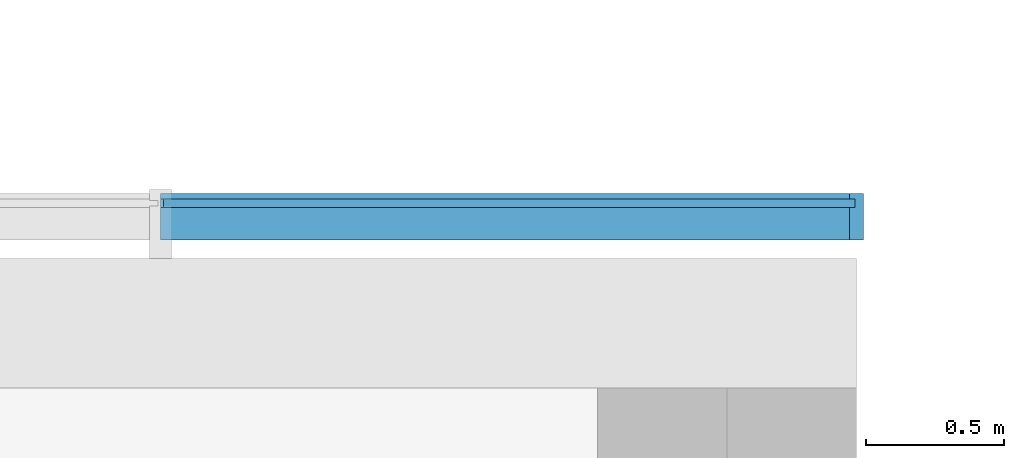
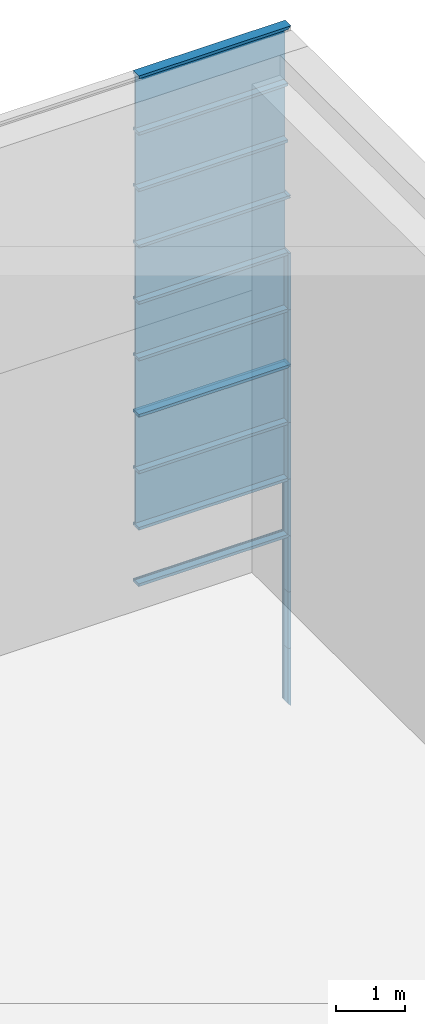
# One storey, part 65 of 105: 28 building element parts, 4 elements without a shape of their own.
"""IFC4 building model written with IfcOpenShell, lengths in millimetres."""

from ifc_helpers import new_model, entity, si_unit, converted_unit, derived_unit, direction, frame, origin_with_axes, place, context, subcontext, project, spatial, triangles, material, element, aggregate, save


model = new_model("IFC4")

# Units and contexts
model_context = context("Model", 3, precision=1e-05, world=origin_with_axes(), true_north=direction((0.0, 1.0)))
body_context = subcontext(model_context, "Body", "Model", "MODEL_VIEW")
ifc_project = project(units=[si_unit("LENGTHUNIT", "METRE", prefix="MILLI"), si_unit("AREAUNIT", "SQUARE_METRE"), si_unit("VOLUMEUNIT", "CUBIC_METRE"), converted_unit("PLANEANGLEUNIT", "DEGREE", entity("IfcLengthMeasure", 0.017453), si_unit("PLANEANGLEUNIT", "RADIAN"), dimensions=[0, 0, 0, 0, 0, 0, 0]), si_unit("SOLIDANGLEUNIT", "STERADIAN"), si_unit("MASSUNIT", "GRAM"), si_unit("TIMEUNIT", "SECOND"), si_unit("THERMODYNAMICTEMPERATUREUNIT", "DEGREE_CELSIUS"), si_unit("LUMINOUSINTENSITYUNIT", "LUMEN"), si_unit("POWERUNIT", "WATT"), derived_unit("THERMALTRANSMITTANCEUNIT", [(si_unit("POWERUNIT", "WATT"), 1), (si_unit("THERMODYNAMICTEMPERATUREUNIT", "KELVIN"), -1), (si_unit("AREAUNIT", "SQUARE_METRE"), -1)])], contexts=[model_context])

# Site, building, storey
site_placement = place(None, origin_with_axes())
site = spatial("IfcSite", under=ifc_project, at=site_placement, Name="Default Site", CompositionType="ELEMENT")
building_placement = place(site_placement, origin_with_axes())
building = spatial("IfcBuilding", under=site, at=building_placement, Name="Default Building", CompositionType="ELEMENT")
storey_placement = place(building_placement, origin_with_axes())
storey = spatial("IfcBuildingStorey", under=building, at=storey_placement, Name="OG - Story", CompositionType="ELEMENT", Elevation=0.0)

# Curtain wall, building element parts
curtain_wall_1_placement = place(storey_placement, origin_with_axes())
curtain_wall_1 = element("IfcCurtainWall", 1, at=curtain_wall_1_placement, inside=storey, Name="Fassade-004", PredefinedType="NOTDEFINED")
ifc_material_1 = material(Name="Blech")
building_element_part_1_placement = place(curtain_wall_1_placement, frame((33014.549222, -4389.262838, 0.0), z_axis=(0.0, 0.0, 1.0), x_axis=(1.0, 0.0, 0.0)))
building_element_part_1 = element("IfcBuildingElementPart", 2, at=building_element_part_1_placement, material=ifc_material_1, Name="Blech", PredefinedType="NOTDEFINED", context=body_context, shape_type="Tessellation", body=[
    triangles([(46731.842, 15.0, 1000.0), (46731.842, -14.999, 1000.0), (46761.842, -132.999, 1000.0), (46761.842, 35.0, 1000.0), (46711.842, 35.0, 1000.0), (46711.842, 15.0, 1000.0), (46711.842, -14.999, 1000.0), (46711.842, -132.999, 1000.0), (46731.842, -14.999, 5.0), (46711.842, -14.999, 25.0), (46711.842, -132.999, 25.0), (46761.842, -132.999, -24.999), (46761.842, 35.0, -24.999), (46711.842, 35.0, 25.0), (46711.842, 15.0, 25.0), (46731.842, 15.0, 5.0)], [[1, 2, 3], [1, 3, 4], [1, 4, 5], [1, 5, 6], [7, 8, 3], [7, 3, 2], [2, 9, 10], [2, 10, 7], [10, 11, 8], [10, 8, 7], [8, 11, 12], [8, 12, 3], [3, 12, 13], [3, 13, 4], [4, 13, 14], [4, 14, 5], [6, 5, 14], [6, 14, 15], [15, 16, 1], [15, 1, 6], [1, 16, 9], [1, 9, 2], [15, 16, 13], [13, 16, 9], [13, 9, 11], [11, 9, 10], [13, 11, 12], [15, 13, 14]], closed=False),
])
building_element_part_2_placement = place(curtain_wall_1_placement, frame((33014.549222, -4389.262838, 0.0), z_axis=(0.0, 0.0, 1.0), x_axis=(1.0, 0.0, 0.0)))
building_element_part_2 = element("IfcBuildingElementPart", 3, at=building_element_part_2_placement, material=ifc_material_1, Name="Blech", PredefinedType="NOTDEFINED", context=body_context, shape_type="Tessellation", body=[
    triangles([(46731.842, 15.0, 2000.0), (46731.842, -14.999, 2000.0), (46761.842, -132.999, 2000.0), (46761.842, 35.0, 2000.0), (46711.842, 35.0, 2000.0), (46711.842, 15.0, 2000.0), (46711.842, -14.999, 2000.0), (46711.842, -132.999, 2000.0), (46731.842, -14.999, 1000.0), (46711.842, -14.999, 1000.0), (46711.842, -132.999, 1000.0), (46761.842, -132.999, 1000.0), (46761.842, 35.0, 1000.0), (46711.842, 35.0, 1000.0), (46711.842, 15.0, 1000.0), (46731.842, 15.0, 1000.0)], [[1, 2, 3], [1, 3, 4], [1, 4, 5], [1, 5, 6], [7, 8, 3], [7, 3, 2], [2, 9, 10], [2, 10, 7], [10, 11, 8], [10, 8, 7], [11, 12, 3], [11, 3, 8], [12, 13, 4], [12, 4, 3], [13, 14, 5], [13, 5, 4], [6, 5, 14], [6, 14, 15], [15, 16, 1], [15, 1, 6], [1, 16, 9], [1, 9, 2], [16, 9, 12], [16, 12, 13], [16, 13, 14], [16, 14, 15], [10, 11, 12], [10, 12, 9]], closed=False),
])
building_element_part_3_placement = place(curtain_wall_1_placement, frame((33014.549222, -4389.262838, 0.0), z_axis=(0.0, 0.0, 1.0), x_axis=(1.0, 0.0, 0.0)))
building_element_part_3 = element("IfcBuildingElementPart", 4, at=building_element_part_3_placement, material=ifc_material_1, Name="Blech", PredefinedType="NOTDEFINED", context=body_context, shape_type="Tessellation", body=[
    triangles([(46761.842, 35.0, 3025.0), (46711.842, 35.0, 2975.0), (46711.842, 15.0, 2975.0), (46731.842, 15.0, 2995.0), (46731.842, -14.999, 2995.0), (46711.842, -132.999, 2975.0), (46761.842, -132.999, 3025.0), (46711.842, -14.999, 2975.0), (46731.842, -14.999, 2000.0), (46711.842, -14.999, 2000.0), (46711.842, -132.999, 2000.0), (46761.842, -132.999, 2000.0), (46761.842, 35.0, 2000.0), (46711.842, 35.0, 2000.0), (46711.842, 15.0, 2000.0), (46731.842, 15.0, 2000.0)], [[1, 2, 3], [1, 3, 4], [1, 4, 5], [1, 5, 6], [1, 6, 7], [8, 6, 5], [5, 9, 10], [5, 10, 8], [10, 11, 6], [10, 6, 8], [11, 12, 7], [11, 7, 6], [12, 13, 1], [12, 1, 7], [13, 14, 2], [13, 2, 1], [3, 2, 14], [3, 14, 15], [15, 16, 4], [15, 4, 3], [4, 16, 9], [4, 9, 5], [16, 9, 12], [16, 12, 13], [16, 13, 14], [16, 14, 15], [10, 11, 12], [10, 12, 9]], closed=False),
])
aggregate(curtain_wall_1, [building_element_part_1, building_element_part_2, building_element_part_3])

curtain_wall_2_placement = place(storey_placement, origin_with_axes())
curtain_wall_2 = element("IfcCurtainWall", 5, at=curtain_wall_2_placement, inside=storey, Name="Fassade-004", PredefinedType="NOTDEFINED")
ifc_material_2 = material(Name="Normalglas")
building_element_part_4_placement = place(curtain_wall_2_placement, frame((33014.549222, -4389.262838, 3000.0), z_axis=(0.0, 0.0, 1.0), x_axis=(1.0, 0.0, 0.0)))
building_element_part_4 = element("IfcBuildingElementPart", 6, at=building_element_part_4_placement, material=ifc_material_2, Name="Normalglas", PredefinedType="NOTDEFINED", context=body_context, shape_type="Tessellation", body=[
    triangles([(46731.842, -14.999, 1995.0), (46731.842, 15.0, 1995.0), (44220.526, 15.0, 1995.0), (44220.526, -14.999, 1995.0), (46731.842, -14.999, 1005.0), (46731.842, 15.0, 1005.0), (44220.526, 15.0, 1005.0), (44220.526, -14.999, 1005.0)], [[1, 2, 3], [1, 3, 4], [5, 6, 2], [5, 2, 1], [2, 6, 7], [2, 7, 3], [4, 3, 7], [4, 7, 8], [1, 4, 8], [1, 8, 5], [8, 7, 6], [8, 6, 5]], closed=False),
])
building_element_part_5_placement = place(curtain_wall_2_placement, frame((33014.549222, -4389.262838, 3000.0), z_axis=(0.0, 0.0, 1.0), x_axis=(1.0, 0.0, 0.0)))
building_element_part_5 = element("IfcBuildingElementPart", 7, at=building_element_part_5_placement, material=ifc_material_2, Name="Normalglas", PredefinedType="NOTDEFINED", context=body_context, shape_type="Tessellation", body=[
    triangles([(46731.842, -14.999, 2995.0), (46731.842, 15.0, 2995.0), (44220.526, 15.0, 2995.0), (44220.526, -14.999, 2995.0), (46731.842, -14.999, 2005.0), (46731.842, 15.0, 2005.0), (44220.526, 15.0, 2005.0), (44220.526, -14.999, 2005.0)], [[1, 2, 3], [1, 3, 4], [5, 6, 2], [5, 2, 1], [2, 6, 7], [2, 7, 3], [4, 3, 7], [4, 7, 8], [1, 4, 8], [1, 8, 5], [8, 7, 6], [8, 6, 5]], closed=False),
])
building_element_part_6_placement = place(curtain_wall_2_placement, frame((33014.549222, -4389.262838, 3000.0), z_axis=(0.0, 0.0, 1.0), x_axis=(1.0, 0.0, 0.0)))
building_element_part_6 = element("IfcBuildingElementPart", 8, at=building_element_part_6_placement, material=ifc_material_1, Name="Blech", PredefinedType="NOTDEFINED", context=body_context, shape_type="Tessellation", body=[
    triangles([(46761.842, 35.0, -24.999), (46711.842, 35.0, 25.0), (46711.842, 15.0, 25.0), (46731.842, 15.0, 5.0), (46731.842, -14.999, 5.0), (46711.842, -132.999, 25.0), (46761.842, -132.999, -24.999), (46711.842, -14.999, 25.0), (44210.526, -14.999, 5.0), (44210.526, -14.999, 25.0), (44210.526, -132.999, 25.0), (44210.526, -132.999, -24.999), (44210.526, 35.0, -24.999), (44210.526, 35.0, 25.0), (44210.526, 15.0, 25.0), (44210.526, 15.0, 5.0)], [[1, 2, 3], [1, 3, 4], [1, 4, 5], [1, 5, 6], [1, 6, 7], [8, 6, 5], [5, 9, 10], [5, 10, 8], [10, 11, 6], [10, 6, 8], [11, 12, 7], [11, 7, 6], [12, 13, 1], [12, 1, 7], [13, 14, 2], [13, 2, 1], [3, 2, 14], [3, 14, 15], [15, 16, 4], [15, 4, 3], [4, 16, 9], [4, 9, 5], [15, 16, 13], [13, 16, 9], [13, 9, 11], [11, 9, 10], [13, 11, 12], [15, 13, 14]], closed=False),
])
building_element_part_7_placement = place(curtain_wall_2_placement, frame((33014.549222, -4389.262838, 3000.0), z_axis=(0.0, 0.0, 1.0), x_axis=(1.0, 0.0, 0.0)))
building_element_part_7 = element("IfcBuildingElementPart", 9, at=building_element_part_7_placement, material=ifc_material_1, Name="Blech", PredefinedType="NOTDEFINED", context=body_context, shape_type="Tessellation", body=[
    triangles([(46731.842, 15.0, 1000.0), (46731.842, -14.999, 1000.0), (46761.842, -132.999, 1000.0), (46761.842, 35.0, 1000.0), (46711.842, 35.0, 1000.0), (46711.842, 15.0, 1000.0), (46711.842, -14.999, 1000.0), (46711.842, -132.999, 1000.0), (46731.842, -14.999, 5.0), (46711.842, -14.999, 25.0), (46711.842, -132.999, 25.0), (46761.842, -132.999, -24.999), (46761.842, 35.0, -24.999), (46711.842, 35.0, 25.0), (46711.842, 15.0, 25.0), (46731.842, 15.0, 5.0)], [[1, 2, 3], [1, 3, 4], [1, 4, 5], [1, 5, 6], [7, 8, 3], [7, 3, 2], [2, 9, 10], [2, 10, 7], [10, 11, 8], [10, 8, 7], [8, 11, 12], [8, 12, 3], [3, 12, 13], [3, 13, 4], [4, 13, 14], [4, 14, 5], [6, 5, 14], [6, 14, 15], [15, 16, 1], [15, 1, 6], [1, 16, 9], [1, 9, 2], [15, 16, 13], [13, 16, 9], [13, 9, 11], [11, 9, 10], [13, 11, 12], [15, 13, 14]], closed=False),
])
building_element_part_8_placement = place(curtain_wall_2_placement, frame((33014.549222, -4389.262838, 3000.0), z_axis=(0.0, 0.0, 1.0), x_axis=(1.0, 0.0, 0.0)))
building_element_part_8 = element("IfcBuildingElementPart", 10, at=building_element_part_8_placement, material=ifc_material_1, Name="Blech", PredefinedType="NOTDEFINED", context=body_context, shape_type="Tessellation", body=[
    triangles([(46711.842, 35.0, 975.0), (46711.842, 15.0, 975.0), (46711.842, 35.0, 1025.0), (46711.842, 15.0, 995.0), (46711.842, 15.0, 1005.0), (46711.842, -14.999, 995.0), (46711.842, -14.999, 1005.0), (46711.842, -14.999, 1025.0), (46711.842, -14.999, 975.0), (46711.842, -132.999, 975.0), (46711.842, -132.999, 1025.0), (46711.842, 15.0, 1025.0), (44210.526, -14.999, 995.0), (44210.526, 15.0, 995.0), (44210.526, 15.0, 975.0), (44210.526, 35.0, 975.0), (44210.526, 35.0, 1025.0), (44210.526, 15.0, 1025.0), (44210.526, 15.0, 1005.0), (44210.526, -14.999, 1005.0), (44210.526, -14.999, 1025.0), (44210.526, -132.999, 1025.0), (44210.526, -132.999, 975.0), (44210.526, -14.999, 975.0)], [[1, 2, 3], [3, 2, 4], [3, 4, 5], [5, 4, 6], [5, 6, 7], [8, 9, 10], [8, 10, 11], [3, 5, 12], [6, 13, 14], [6, 14, 4], [4, 14, 15], [4, 15, 2], [15, 16, 1], [15, 1, 2], [1, 16, 17], [1, 17, 3], [18, 12, 3], [18, 3, 17], [12, 18, 19], [12, 19, 5], [7, 5, 19], [7, 19, 20], [8, 7, 20], [8, 20, 21], [8, 21, 22], [8, 22, 11], [11, 22, 23], [11, 23, 10], [9, 10, 23], [9, 23, 24], [9, 24, 13], [9, 13, 6], [17, 18, 16], [16, 18, 19], [16, 19, 14], [14, 19, 20], [14, 20, 13], [24, 21, 22], [24, 22, 23], [16, 14, 15]], closed=False),
])
building_element_part_9_placement = place(curtain_wall_2_placement, frame((33014.549222, -4389.262838, 3000.0), z_axis=(0.0, 0.0, 1.0), x_axis=(1.0, 0.0, 0.0)))
building_element_part_9 = element("IfcBuildingElementPart", 11, at=building_element_part_9_placement, material=ifc_material_1, Name="Blech", PredefinedType="NOTDEFINED", context=body_context, shape_type="Tessellation", body=[
    triangles([(46731.842, 15.0, 2000.0), (46731.842, -14.999, 2000.0), (46761.842, -132.999, 2000.0), (46761.842, 35.0, 2000.0), (46711.842, 35.0, 2000.0), (46711.842, 15.0, 2000.0), (46711.842, -14.999, 2000.0), (46711.842, -132.999, 2000.0), (46731.842, -14.999, 1000.0), (46711.842, -14.999, 1000.0), (46711.842, -132.999, 1000.0), (46761.842, -132.999, 1000.0), (46761.842, 35.0, 1000.0), (46711.842, 35.0, 1000.0), (46711.842, 15.0, 1000.0), (46731.842, 15.0, 1000.0)], [[1, 2, 3], [1, 3, 4], [1, 4, 5], [1, 5, 6], [7, 8, 3], [7, 3, 2], [2, 9, 10], [2, 10, 7], [10, 11, 8], [10, 8, 7], [11, 12, 3], [11, 3, 8], [12, 13, 4], [12, 4, 3], [13, 14, 5], [13, 5, 4], [6, 5, 14], [6, 14, 15], [15, 16, 1], [15, 1, 6], [1, 16, 9], [1, 9, 2], [16, 9, 12], [16, 12, 13], [16, 13, 14], [16, 14, 15], [10, 11, 12], [10, 12, 9]], closed=False),
])
building_element_part_10_placement = place(curtain_wall_2_placement, frame((33014.549222, -4389.262838, 3000.0), z_axis=(0.0, 0.0, 1.0), x_axis=(1.0, 0.0, 0.0)))
building_element_part_10 = element("IfcBuildingElementPart", 12, at=building_element_part_10_placement, material=ifc_material_1, Name="Blech", PredefinedType="NOTDEFINED", context=body_context, shape_type="Tessellation", body=[
    triangles([(46711.842, 35.0, 1975.0), (46711.842, 15.0, 1975.0), (46711.842, 35.0, 2025.0), (46711.842, 15.0, 1995.0), (46711.842, 15.0, 2005.0), (46711.842, -14.999, 1995.0), (46711.842, -14.999, 2005.0), (46711.842, -14.999, 2025.0), (46711.842, -14.999, 1975.0), (46711.842, -132.999, 1975.0), (46711.842, -132.999, 2025.0), (46711.842, 15.0, 2025.0), (44210.526, -14.999, 1995.0), (44210.526, 15.0, 1995.0), (44210.526, 15.0, 1975.0), (44210.526, 35.0, 1975.0), (44210.526, 35.0, 2025.0), (44210.526, 15.0, 2025.0), (44210.526, 15.0, 2005.0), (44210.526, -14.999, 2005.0), (44210.526, -14.999, 2025.0), (44210.526, -132.999, 2025.0), (44210.526, -132.999, 1975.0), (44210.526, -14.999, 1975.0)], [[1, 2, 3], [3, 2, 4], [3, 4, 5], [5, 4, 6], [5, 6, 7], [8, 9, 10], [8, 10, 11], [3, 5, 12], [6, 13, 14], [6, 14, 4], [4, 14, 15], [4, 15, 2], [15, 16, 1], [15, 1, 2], [1, 16, 17], [1, 17, 3], [18, 12, 3], [18, 3, 17], [12, 18, 19], [12, 19, 5], [7, 5, 19], [7, 19, 20], [8, 7, 20], [8, 20, 21], [8, 21, 22], [8, 22, 11], [11, 22, 23], [11, 23, 10], [9, 10, 23], [9, 23, 24], [9, 24, 13], [9, 13, 6], [17, 18, 16], [16, 18, 19], [16, 19, 14], [14, 19, 20], [14, 20, 13], [24, 21, 22], [24, 22, 23], [16, 14, 15]], closed=False),
])
building_element_part_11_placement = place(curtain_wall_2_placement, frame((33014.549222, -4389.262838, 3000.0), z_axis=(0.0, 0.0, 1.0), x_axis=(1.0, 0.0, 0.0)))
building_element_part_11 = element("IfcBuildingElementPart", 13, at=building_element_part_11_placement, material=ifc_material_1, Name="Blech", PredefinedType="NOTDEFINED", context=body_context, shape_type="Tessellation", body=[
    triangles([(46761.842, 35.0, 3025.0), (46711.842, 35.0, 2975.0), (46711.842, 15.0, 2975.0), (46731.842, 15.0, 2995.0), (46731.842, -14.999, 2995.0), (46711.842, -132.999, 2975.0), (46761.842, -132.999, 3025.0), (46711.842, -14.999, 2975.0), (46731.842, -14.999, 2000.0), (46711.842, -14.999, 2000.0), (46711.842, -132.999, 2000.0), (46761.842, -132.999, 2000.0), (46761.842, 35.0, 2000.0), (46711.842, 35.0, 2000.0), (46711.842, 15.0, 2000.0), (46731.842, 15.0, 2000.0)], [[1, 2, 3], [1, 3, 4], [1, 4, 5], [1, 5, 6], [1, 6, 7], [8, 6, 5], [5, 9, 10], [5, 10, 8], [10, 11, 6], [10, 6, 8], [11, 12, 7], [11, 7, 6], [12, 13, 1], [12, 1, 7], [13, 14, 2], [13, 2, 1], [3, 2, 14], [3, 14, 15], [15, 16, 4], [15, 4, 3], [4, 16, 9], [4, 9, 5], [16, 9, 12], [16, 12, 13], [16, 13, 14], [16, 14, 15], [10, 11, 12], [10, 12, 9]], closed=False),
])
building_element_part_12_placement = place(curtain_wall_2_placement, frame((33014.549222, -4389.262838, 3000.0), z_axis=(0.0, 0.0, 1.0), x_axis=(1.0, 0.0, 0.0)))
building_element_part_12 = element("IfcBuildingElementPart", 14, at=building_element_part_12_placement, material=ifc_material_1, Name="Blech", PredefinedType="NOTDEFINED", context=body_context, shape_type="Tessellation", body=[
    triangles([(46711.842, 15.0, 2975.0), (46731.842, 15.0, 2995.0), (46761.842, 35.0, 3025.0), (46731.842, -14.999, 2995.0), (46711.842, -132.999, 2975.0), (46711.842, -14.999, 2975.0), (46761.842, -132.999, 3025.0), (46711.842, 35.0, 2975.0), (44210.526, -14.999, 2995.0), (44210.526, 15.0, 2995.0), (44210.526, 15.0, 2975.0), (44210.526, 35.0, 2975.0), (44210.526, 35.0, 3025.0), (44210.526, -132.999, 3025.0), (44210.526, -132.999, 2975.0), (44210.526, -14.999, 2975.0)], [[1, 2, 3], [3, 2, 4], [3, 4, 5], [5, 4, 6], [3, 5, 7], [1, 3, 8], [2, 4, 9], [2, 9, 10], [11, 1, 2], [11, 2, 10], [1, 11, 12], [1, 12, 8], [13, 3, 8], [13, 8, 12], [14, 7, 3], [14, 3, 13], [15, 5, 7], [15, 7, 14], [16, 6, 5], [16, 5, 15], [4, 6, 16], [4, 16, 9], [13, 12, 11], [13, 11, 10], [13, 10, 9], [13, 9, 15], [13, 15, 14], [16, 15, 9]], closed=False),
])
aggregate(curtain_wall_2, [building_element_part_4, building_element_part_5, building_element_part_6, building_element_part_7, building_element_part_8, building_element_part_9, building_element_part_10, building_element_part_11, building_element_part_12])

curtain_wall_3_placement = place(storey_placement, origin_with_axes())
curtain_wall_3 = element("IfcCurtainWall", 15, at=curtain_wall_3_placement, inside=storey, Name="Fassade-004", PredefinedType="NOTDEFINED")
building_element_part_13_placement = place(curtain_wall_3_placement, frame((33014.549222, -4389.262838, 6000.0), z_axis=(0.0, 0.0, 1.0), x_axis=(1.0, 0.0, 0.0)))
building_element_part_13 = element("IfcBuildingElementPart", 16, at=building_element_part_13_placement, material=ifc_material_2, Name="Normalglas", PredefinedType="NOTDEFINED", context=body_context, shape_type="Tessellation", body=[
    triangles([(46731.842, -14.999, 995.0), (46731.842, 15.0, 995.0), (44220.526, 15.0, 995.0), (44220.526, -14.999, 995.0), (46731.842, -14.999, 5.0), (46731.842, 15.0, 5.0), (44220.526, 15.0, 5.0), (44220.526, -14.999, 5.0)], [[1, 2, 3], [1, 3, 4], [5, 6, 2], [5, 2, 1], [2, 6, 7], [2, 7, 3], [4, 3, 7], [4, 7, 8], [1, 4, 8], [1, 8, 5], [8, 7, 6], [8, 6, 5]], closed=False),
])
building_element_part_14_placement = place(curtain_wall_3_placement, frame((33014.549222, -4389.262838, 6000.0), z_axis=(0.0, 0.0, 1.0), x_axis=(1.0, 0.0, 0.0)))
building_element_part_14 = element("IfcBuildingElementPart", 17, at=building_element_part_14_placement, material=ifc_material_2, Name="Normalglas", PredefinedType="NOTDEFINED", context=body_context, shape_type="Tessellation", body=[
    triangles([(46731.842, -14.999, 1995.0), (46731.842, 15.0, 1995.0), (44220.526, 15.0, 1995.0), (44220.526, -14.999, 1995.0), (46731.842, -14.999, 1005.0), (46731.842, 15.0, 1005.0), (44220.526, 15.0, 1005.0), (44220.526, -14.999, 1005.0)], [[1, 2, 3], [1, 3, 4], [5, 6, 2], [5, 2, 1], [2, 6, 7], [2, 7, 3], [4, 3, 7], [4, 7, 8], [1, 4, 8], [1, 8, 5], [8, 7, 6], [8, 6, 5]], closed=False),
])
building_element_part_15_placement = place(curtain_wall_3_placement, frame((33014.549222, -4389.262838, 6000.0), z_axis=(0.0, 0.0, 1.0), x_axis=(1.0, 0.0, 0.0)))
building_element_part_15 = element("IfcBuildingElementPart", 18, at=building_element_part_15_placement, material=ifc_material_2, Name="Normalglas", PredefinedType="NOTDEFINED", context=body_context, shape_type="Tessellation", body=[
    triangles([(46731.842, -14.999, 2995.0), (46731.842, 15.0, 2995.0), (44220.526, 15.0, 2995.0), (44220.526, -14.999, 2995.0), (46731.842, -14.999, 2005.0), (46731.842, 15.0, 2005.0), (44220.526, 15.0, 2005.0), (44220.526, -14.999, 2005.0)], [[1, 2, 3], [1, 3, 4], [5, 6, 2], [5, 2, 1], [2, 6, 7], [2, 7, 3], [4, 3, 7], [4, 7, 8], [1, 4, 8], [1, 8, 5], [8, 7, 6], [8, 6, 5]], closed=False),
])
building_element_part_16_placement = place(curtain_wall_3_placement, frame((33014.549222, -4389.262838, 6000.0), z_axis=(0.0, 0.0, 1.0), x_axis=(1.0, 0.0, 0.0)))
building_element_part_16 = element("IfcBuildingElementPart", 19, at=building_element_part_16_placement, material=ifc_material_1, Name="Blech", PredefinedType="NOTDEFINED", context=body_context, shape_type="Tessellation", body=[
    triangles([(46761.842, 35.0, -24.999), (46711.842, 35.0, 25.0), (46711.842, 15.0, 25.0), (46731.842, 15.0, 5.0), (46731.842, -14.999, 5.0), (46711.842, -132.999, 25.0), (46761.842, -132.999, -24.999), (46711.842, -14.999, 25.0), (44210.526, -14.999, 5.0), (44210.526, -14.999, 25.0), (44210.526, -132.999, 25.0), (44210.526, -132.999, -24.999), (44210.526, 35.0, -24.999), (44210.526, 35.0, 25.0), (44210.526, 15.0, 25.0), (44210.526, 15.0, 5.0)], [[1, 2, 3], [1, 3, 4], [1, 4, 5], [1, 5, 6], [1, 6, 7], [8, 6, 5], [5, 9, 10], [5, 10, 8], [10, 11, 6], [10, 6, 8], [11, 12, 7], [11, 7, 6], [12, 13, 1], [12, 1, 7], [13, 14, 2], [13, 2, 1], [3, 2, 14], [3, 14, 15], [15, 16, 4], [15, 4, 3], [4, 16, 9], [4, 9, 5], [15, 16, 13], [13, 16, 9], [13, 9, 11], [11, 9, 10], [13, 11, 12], [15, 13, 14]], closed=False),
])
building_element_part_17_placement = place(curtain_wall_3_placement, frame((33014.549222, -4389.262838, 6000.0), z_axis=(0.0, 0.0, 1.0), x_axis=(1.0, 0.0, 0.0)))
building_element_part_17 = element("IfcBuildingElementPart", 20, at=building_element_part_17_placement, material=ifc_material_1, Name="Blech", PredefinedType="NOTDEFINED", context=body_context, shape_type="Tessellation", body=[
    triangles([(46731.842, 15.0, 1000.0), (46731.842, -14.999, 1000.0), (46761.842, -132.999, 1000.0), (46761.842, 35.0, 1000.0), (46711.842, 35.0, 1000.0), (46711.842, 15.0, 1000.0), (46711.842, -14.999, 1000.0), (46711.842, -132.999, 1000.0), (46731.842, -14.999, 5.0), (46711.842, -14.999, 25.0), (46711.842, -132.999, 25.0), (46761.842, -132.999, -24.999), (46761.842, 35.0, -24.999), (46711.842, 35.0, 25.0), (46711.842, 15.0, 25.0), (46731.842, 15.0, 5.0)], [[1, 2, 3], [1, 3, 4], [1, 4, 5], [1, 5, 6], [7, 8, 3], [7, 3, 2], [2, 9, 10], [2, 10, 7], [10, 11, 8], [10, 8, 7], [8, 11, 12], [8, 12, 3], [3, 12, 13], [3, 13, 4], [4, 13, 14], [4, 14, 5], [6, 5, 14], [6, 14, 15], [15, 16, 1], [15, 1, 6], [1, 16, 9], [1, 9, 2], [15, 16, 13], [13, 16, 9], [13, 9, 11], [11, 9, 10], [13, 11, 12], [15, 13, 14]], closed=False),
])
building_element_part_18_placement = place(curtain_wall_3_placement, frame((33014.549222, -4389.262838, 6000.0), z_axis=(0.0, 0.0, 1.0), x_axis=(1.0, 0.0, 0.0)))
building_element_part_18 = element("IfcBuildingElementPart", 21, at=building_element_part_18_placement, material=ifc_material_1, Name="Blech", PredefinedType="NOTDEFINED", context=body_context, shape_type="Tessellation", body=[
    triangles([(46711.842, 35.0, 975.0), (46711.842, 15.0, 975.0), (46711.842, 35.0, 1025.0), (46711.842, 15.0, 995.0), (46711.842, 15.0, 1005.0), (46711.842, -14.999, 995.0), (46711.842, -14.999, 1005.0), (46711.842, -14.999, 1025.0), (46711.842, -14.999, 975.0), (46711.842, -132.999, 975.0), (46711.842, -132.999, 1025.0), (46711.842, 15.0, 1025.0), (44210.526, -14.999, 995.0), (44210.526, 15.0, 995.0), (44210.526, 15.0, 975.0), (44210.526, 35.0, 975.0), (44210.526, 35.0, 1025.0), (44210.526, 15.0, 1025.0), (44210.526, 15.0, 1005.0), (44210.526, -14.999, 1005.0), (44210.526, -14.999, 1025.0), (44210.526, -132.999, 1025.0), (44210.526, -132.999, 975.0), (44210.526, -14.999, 975.0)], [[1, 2, 3], [3, 2, 4], [3, 4, 5], [5, 4, 6], [5, 6, 7], [8, 9, 10], [8, 10, 11], [3, 5, 12], [6, 13, 14], [6, 14, 4], [4, 14, 15], [4, 15, 2], [15, 16, 1], [15, 1, 2], [1, 16, 17], [1, 17, 3], [18, 12, 3], [18, 3, 17], [12, 18, 19], [12, 19, 5], [7, 5, 19], [7, 19, 20], [8, 7, 20], [8, 20, 21], [8, 21, 22], [8, 22, 11], [11, 22, 23], [11, 23, 10], [9, 10, 23], [9, 23, 24], [9, 24, 13], [9, 13, 6], [17, 18, 16], [16, 18, 19], [16, 19, 14], [14, 19, 20], [14, 20, 13], [24, 21, 22], [24, 22, 23], [16, 14, 15]], closed=False),
])
building_element_part_19_placement = place(curtain_wall_3_placement, frame((33014.549222, -4389.262838, 6000.0), z_axis=(0.0, 0.0, 1.0), x_axis=(1.0, 0.0, 0.0)))
building_element_part_19 = element("IfcBuildingElementPart", 22, at=building_element_part_19_placement, material=ifc_material_1, Name="Blech", PredefinedType="NOTDEFINED", context=body_context, shape_type="Tessellation", body=[
    triangles([(46731.842, 15.0, 2000.0), (46731.842, -14.999, 2000.0), (46761.842, -132.999, 2000.0), (46761.842, 35.0, 2000.0), (46711.842, 35.0, 2000.0), (46711.842, 15.0, 2000.0), (46711.842, -14.999, 2000.0), (46711.842, -132.999, 2000.0), (46731.842, -14.999, 1000.0), (46711.842, -14.999, 1000.0), (46711.842, -132.999, 1000.0), (46761.842, -132.999, 1000.0), (46761.842, 35.0, 1000.0), (46711.842, 35.0, 1000.0), (46711.842, 15.0, 1000.0), (46731.842, 15.0, 1000.0)], [[1, 2, 3], [1, 3, 4], [1, 4, 5], [1, 5, 6], [7, 8, 3], [7, 3, 2], [2, 9, 10], [2, 10, 7], [10, 11, 8], [10, 8, 7], [11, 12, 3], [11, 3, 8], [12, 13, 4], [12, 4, 3], [13, 14, 5], [13, 5, 4], [6, 5, 14], [6, 14, 15], [15, 16, 1], [15, 1, 6], [1, 16, 9], [1, 9, 2], [16, 9, 12], [16, 12, 13], [16, 13, 14], [16, 14, 15], [10, 11, 12], [10, 12, 9]], closed=False),
])
building_element_part_20_placement = place(curtain_wall_3_placement, frame((33014.549222, -4389.262838, 6000.0), z_axis=(0.0, 0.0, 1.0), x_axis=(1.0, 0.0, 0.0)))
building_element_part_20 = element("IfcBuildingElementPart", 23, at=building_element_part_20_placement, material=ifc_material_1, Name="Blech", PredefinedType="NOTDEFINED", context=body_context, shape_type="Tessellation", body=[
    triangles([(46711.842, 35.0, 1975.0), (46711.842, 15.0, 1975.0), (46711.842, 35.0, 2025.0), (46711.842, 15.0, 1995.0), (46711.842, 15.0, 2005.0), (46711.842, -14.999, 1995.0), (46711.842, -14.999, 2005.0), (46711.842, -14.999, 2025.0), (46711.842, -14.999, 1975.0), (46711.842, -132.999, 1975.0), (46711.842, -132.999, 2025.0), (46711.842, 15.0, 2025.0), (44210.526, -14.999, 1995.0), (44210.526, 15.0, 1995.0), (44210.526, 15.0, 1975.0), (44210.526, 35.0, 1975.0), (44210.526, 35.0, 2025.0), (44210.526, 15.0, 2025.0), (44210.526, 15.0, 2005.0), (44210.526, -14.999, 2005.0), (44210.526, -14.999, 2025.0), (44210.526, -132.999, 2025.0), (44210.526, -132.999, 1975.0), (44210.526, -14.999, 1975.0)], [[1, 2, 3], [3, 2, 4], [3, 4, 5], [5, 4, 6], [5, 6, 7], [8, 9, 10], [8, 10, 11], [3, 5, 12], [6, 13, 14], [6, 14, 4], [4, 14, 15], [4, 15, 2], [15, 16, 1], [15, 1, 2], [1, 16, 17], [1, 17, 3], [18, 12, 3], [18, 3, 17], [12, 18, 19], [12, 19, 5], [7, 5, 19], [7, 19, 20], [8, 7, 20], [8, 20, 21], [8, 21, 22], [8, 22, 11], [11, 22, 23], [11, 23, 10], [9, 10, 23], [9, 23, 24], [9, 24, 13], [9, 13, 6], [17, 18, 16], [16, 18, 19], [16, 19, 14], [14, 19, 20], [14, 20, 13], [24, 21, 22], [24, 22, 23], [16, 14, 15]], closed=False),
])
building_element_part_21_placement = place(curtain_wall_3_placement, frame((33014.549222, -4389.262838, 6000.0), z_axis=(0.0, 0.0, 1.0), x_axis=(1.0, 0.0, 0.0)))
building_element_part_21 = element("IfcBuildingElementPart", 24, at=building_element_part_21_placement, material=ifc_material_1, Name="Blech", PredefinedType="NOTDEFINED", context=body_context, shape_type="Tessellation", body=[
    triangles([(46711.842, 15.0, 2975.0), (46731.842, 15.0, 2995.0), (46761.842, 35.0, 3025.0), (46731.842, -14.999, 2995.0), (46711.842, -132.999, 2975.0), (46711.842, -14.999, 2975.0), (46761.842, -132.999, 3025.0), (46711.842, 35.0, 2975.0), (44210.526, -14.999, 2995.0), (44210.526, 15.0, 2995.0), (44210.526, 15.0, 2975.0), (44210.526, 35.0, 2975.0), (44210.526, 35.0, 3025.0), (44210.526, -132.999, 3025.0), (44210.526, -132.999, 2975.0), (44210.526, -14.999, 2975.0)], [[1, 2, 3], [3, 2, 4], [3, 4, 5], [5, 4, 6], [3, 5, 7], [1, 3, 8], [2, 4, 9], [2, 9, 10], [11, 1, 2], [11, 2, 10], [1, 11, 12], [1, 12, 8], [13, 3, 8], [13, 8, 12], [14, 7, 3], [14, 3, 13], [15, 5, 7], [15, 7, 14], [16, 6, 5], [16, 5, 15], [4, 6, 16], [4, 16, 9], [13, 12, 11], [13, 11, 10], [13, 10, 9], [13, 9, 15], [13, 15, 14], [16, 15, 9]], closed=False),
])
aggregate(curtain_wall_3, [building_element_part_13, building_element_part_14, building_element_part_15, building_element_part_16, building_element_part_17, building_element_part_18, building_element_part_19, building_element_part_20, building_element_part_21])

curtain_wall_4_placement = place(storey_placement, origin_with_axes())
curtain_wall_4 = element("IfcCurtainWall", 25, at=curtain_wall_4_placement, inside=storey, Name="Fassade-004", PredefinedType="NOTDEFINED")
building_element_part_22_placement = place(curtain_wall_4_placement, frame((33014.549222, -4389.262838, 9000.0), z_axis=(0.0, 0.0, 1.0), x_axis=(1.0, 0.0, 0.0)))
building_element_part_22 = element("IfcBuildingElementPart", 26, at=building_element_part_22_placement, material=ifc_material_2, Name="Normalglas", PredefinedType="NOTDEFINED", context=body_context, shape_type="Tessellation", body=[
    triangles([(46731.842, -14.999, 995.0), (46731.842, 15.0, 995.0), (44220.526, 15.0, 995.0), (44220.526, -14.999, 995.0), (46731.842, -14.999, 5.0), (46731.842, 15.0, 5.0), (44220.526, 15.0, 5.0), (44220.526, -14.999, 5.0)], [[1, 2, 3], [1, 3, 4], [5, 6, 2], [5, 2, 1], [2, 6, 7], [2, 7, 3], [4, 3, 7], [4, 7, 8], [1, 4, 8], [1, 8, 5], [8, 7, 6], [8, 6, 5]], closed=False),
])
building_element_part_23_placement = place(curtain_wall_4_placement, frame((33014.549222, -4389.262838, 9000.0), z_axis=(0.0, 0.0, 1.0), x_axis=(1.0, 0.0, 0.0)))
building_element_part_23 = element("IfcBuildingElementPart", 27, at=building_element_part_23_placement, material=ifc_material_2, Name="Normalglas", PredefinedType="NOTDEFINED", context=body_context, shape_type="Tessellation", body=[
    triangles([(46731.842, -14.999, 1995.0), (46731.842, 15.0, 1995.0), (44220.526, 15.0, 1995.0), (44220.526, -14.999, 1995.0), (46731.842, -14.999, 1005.0), (46731.842, 15.0, 1005.0), (44220.526, 15.0, 1005.0), (44220.526, -14.999, 1005.0)], [[1, 2, 3], [1, 3, 4], [5, 6, 2], [5, 2, 1], [2, 6, 7], [2, 7, 3], [4, 3, 7], [4, 7, 8], [1, 4, 8], [1, 8, 5], [8, 7, 6], [8, 6, 5]], closed=False),
])
building_element_part_24_placement = place(curtain_wall_4_placement, frame((33014.549222, -4389.262838, 9000.0), z_axis=(0.0, 0.0, 1.0), x_axis=(1.0, 0.0, 0.0)))
building_element_part_24 = element("IfcBuildingElementPart", 28, at=building_element_part_24_placement, material=ifc_material_2, Name="Normalglas", PredefinedType="NOTDEFINED", context=body_context, shape_type="Tessellation", body=[
    triangles([(46731.842, -14.999, 2995.0), (46731.842, 15.0, 2995.0), (44220.526, 15.0, 2995.0), (44220.526, -14.999, 2995.0), (46731.842, -14.999, 2005.0), (46731.842, 15.0, 2005.0), (44220.526, 15.0, 2005.0), (44220.526, -14.999, 2005.0)], [[1, 2, 3], [1, 3, 4], [5, 6, 2], [5, 2, 1], [2, 6, 7], [2, 7, 3], [4, 3, 7], [4, 7, 8], [1, 4, 8], [1, 8, 5], [8, 7, 6], [8, 6, 5]], closed=False),
])
building_element_part_25_placement = place(curtain_wall_4_placement, frame((33014.549222, -4389.262838, 9000.0), z_axis=(0.0, 0.0, 1.0), x_axis=(1.0, 0.0, 0.0)))
building_element_part_25 = element("IfcBuildingElementPart", 29, at=building_element_part_25_placement, material=ifc_material_1, Name="Blech", PredefinedType="NOTDEFINED", context=body_context, shape_type="Tessellation", body=[
    triangles([(46761.842, 35.0, -24.999), (46711.842, 35.0, 25.0), (46711.842, 15.0, 25.0), (46731.842, 15.0, 5.0), (46731.842, -14.999, 5.0), (46711.842, -132.999, 25.0), (46761.842, -132.999, -24.999), (46711.842, -14.999, 25.0), (44210.526, -14.999, 5.0), (44210.526, -14.999, 25.0), (44210.526, -132.999, 25.0), (44210.526, -132.999, -24.999), (44210.526, 35.0, -24.999), (44210.526, 35.0, 25.0), (44210.526, 15.0, 25.0), (44210.526, 15.0, 5.0)], [[1, 2, 3], [1, 3, 4], [1, 4, 5], [1, 5, 6], [1, 6, 7], [8, 6, 5], [5, 9, 10], [5, 10, 8], [10, 11, 6], [10, 6, 8], [11, 12, 7], [11, 7, 6], [12, 13, 1], [12, 1, 7], [13, 14, 2], [13, 2, 1], [3, 2, 14], [3, 14, 15], [15, 16, 4], [15, 4, 3], [4, 16, 9], [4, 9, 5], [15, 16, 13], [13, 16, 9], [13, 9, 11], [11, 9, 10], [13, 11, 12], [15, 13, 14]], closed=False),
])
building_element_part_26_placement = place(curtain_wall_4_placement, frame((33014.549222, -4389.262838, 9000.0), z_axis=(0.0, 0.0, 1.0), x_axis=(1.0, 0.0, 0.0)))
building_element_part_26 = element("IfcBuildingElementPart", 30, at=building_element_part_26_placement, material=ifc_material_1, Name="Blech", PredefinedType="NOTDEFINED", context=body_context, shape_type="Tessellation", body=[
    triangles([(46711.842, 35.0, 975.0), (46711.842, 15.0, 975.0), (46711.842, 35.0, 1025.0), (46711.842, 15.0, 995.0), (46711.842, 15.0, 1005.0), (46711.842, -14.999, 995.0), (46711.842, -14.999, 1005.0), (46711.842, -14.999, 1025.0), (46711.842, -14.999, 975.0), (46711.842, -132.999, 975.0), (46711.842, -132.999, 1025.0), (46711.842, 15.0, 1025.0), (44210.526, -14.999, 995.0), (44210.526, 15.0, 995.0), (44210.526, 15.0, 975.0), (44210.526, 35.0, 975.0), (44210.526, 35.0, 1025.0), (44210.526, 15.0, 1025.0), (44210.526, 15.0, 1005.0), (44210.526, -14.999, 1005.0), (44210.526, -14.999, 1025.0), (44210.526, -132.999, 1025.0), (44210.526, -132.999, 975.0), (44210.526, -14.999, 975.0)], [[1, 2, 3], [3, 2, 4], [3, 4, 5], [5, 4, 6], [5, 6, 7], [8, 9, 10], [8, 10, 11], [3, 5, 12], [6, 13, 14], [6, 14, 4], [4, 14, 15], [4, 15, 2], [15, 16, 1], [15, 1, 2], [1, 16, 17], [1, 17, 3], [18, 12, 3], [18, 3, 17], [12, 18, 19], [12, 19, 5], [7, 5, 19], [7, 19, 20], [8, 7, 20], [8, 20, 21], [8, 21, 22], [8, 22, 11], [11, 22, 23], [11, 23, 10], [9, 10, 23], [9, 23, 24], [9, 24, 13], [9, 13, 6], [17, 18, 16], [16, 18, 19], [16, 19, 14], [14, 19, 20], [14, 20, 13], [24, 21, 22], [24, 22, 23], [16, 14, 15]], closed=False),
])
building_element_part_27_placement = place(curtain_wall_4_placement, frame((33014.549222, -4389.262838, 9000.0), z_axis=(0.0, 0.0, 1.0), x_axis=(1.0, 0.0, 0.0)))
building_element_part_27 = element("IfcBuildingElementPart", 31, at=building_element_part_27_placement, material=ifc_material_1, Name="Blech", PredefinedType="NOTDEFINED", context=body_context, shape_type="Tessellation", body=[
    triangles([(46711.842, 35.0, 1975.0), (46711.842, 15.0, 1975.0), (46711.842, 35.0, 2025.0), (46711.842, 15.0, 1995.0), (46711.842, 15.0, 2005.0), (46711.842, -14.999, 1995.0), (46711.842, -14.999, 2005.0), (46711.842, -14.999, 2025.0), (46711.842, -14.999, 1975.0), (46711.842, -132.999, 1975.0), (46711.842, -132.999, 2025.0), (46711.842, 15.0, 2025.0), (44210.526, -14.999, 1995.0), (44210.526, 15.0, 1995.0), (44210.526, 15.0, 1975.0), (44210.526, 35.0, 1975.0), (44210.526, 35.0, 2025.0), (44210.526, 15.0, 2025.0), (44210.526, 15.0, 2005.0), (44210.526, -14.999, 2005.0), (44210.526, -14.999, 2025.0), (44210.526, -132.999, 2025.0), (44210.526, -132.999, 1975.0), (44210.526, -14.999, 1975.0)], [[1, 2, 3], [3, 2, 4], [3, 4, 5], [5, 4, 6], [5, 6, 7], [8, 9, 10], [8, 10, 11], [3, 5, 12], [6, 13, 14], [6, 14, 4], [4, 14, 15], [4, 15, 2], [15, 16, 1], [15, 1, 2], [1, 16, 17], [1, 17, 3], [18, 12, 3], [18, 3, 17], [12, 18, 19], [12, 19, 5], [7, 5, 19], [7, 19, 20], [8, 7, 20], [8, 20, 21], [8, 21, 22], [8, 22, 11], [11, 22, 23], [11, 23, 10], [9, 10, 23], [9, 23, 24], [9, 24, 13], [9, 13, 6], [17, 18, 16], [16, 18, 19], [16, 19, 14], [14, 19, 20], [14, 20, 13], [24, 21, 22], [24, 22, 23], [16, 14, 15]], closed=False),
])
building_element_part_28_placement = place(curtain_wall_4_placement, frame((33014.549222, -4389.262838, 9000.0), z_axis=(0.0, 0.0, 1.0), x_axis=(1.0, 0.0, 0.0)))
building_element_part_28 = element("IfcBuildingElementPart", 32, at=building_element_part_28_placement, material=ifc_material_1, Name="Blech", PredefinedType="NOTDEFINED", context=body_context, shape_type="Tessellation", body=[
    triangles([(46711.842, 15.0, 2975.0), (46731.842, 15.0, 2995.0), (46761.842, 35.0, 3025.0), (46731.842, -14.999, 2995.0), (46711.842, -132.999, 2975.0), (46711.842, -14.999, 2975.0), (46761.842, -132.999, 3025.0), (46711.842, 35.0, 2975.0), (44210.526, -14.999, 2995.0), (44210.526, 15.0, 2995.0), (44210.526, 15.0, 2975.0), (44210.526, 35.0, 2975.0), (44210.526, 35.0, 3025.0), (44210.526, -132.999, 3025.0), (44210.526, -132.999, 2975.0), (44210.526, -14.999, 2975.0)], [[1, 2, 3], [3, 2, 4], [3, 4, 5], [5, 4, 6], [3, 5, 7], [1, 3, 8], [2, 4, 9], [2, 9, 10], [11, 1, 2], [11, 2, 10], [1, 11, 12], [1, 12, 8], [13, 3, 8], [13, 8, 12], [14, 7, 3], [14, 3, 13], [15, 5, 7], [15, 7, 14], [16, 6, 5], [16, 5, 15], [4, 6, 16], [4, 16, 9], [13, 12, 11], [13, 11, 10], [13, 10, 9], [13, 9, 15], [13, 15, 14], [16, 15, 9]], closed=False),
])
aggregate(curtain_wall_4, [building_element_part_22, building_element_part_23, building_element_part_24, building_element_part_25, building_element_part_26, building_element_part_27, building_element_part_28])

save(model, "model.ifc")
